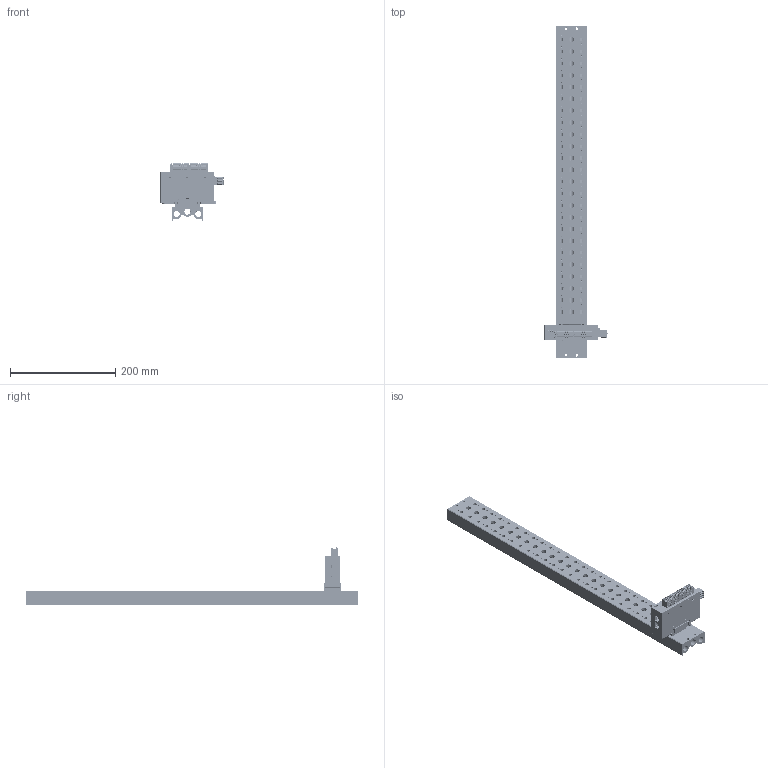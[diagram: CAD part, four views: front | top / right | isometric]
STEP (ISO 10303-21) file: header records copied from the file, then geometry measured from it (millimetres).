
FILE_DESCRIPTION(/* description */ (''),/* implementation_level */ '2;1');
FILE_NAME(/* name */ '',/* time_stamp */ '2025-10-09T16:53:15+08:00',/* author */ (''),/* organization */ (''),/* preprocessor_version */ 'ST-DEVELOPER v14',/* originating_system */ 'SIEMENS PLM Software NX 8.0',/* authorisation */ '');
FILE_SCHEMA (('AP203_CONFIGURATION_CONTROLLED_3D_DESIGN_OF_MECHANICAL_PARTS_AND_ASSEMBLIES_MIM_LF { 1 0 10303 403 2 1 2}'));
Products named in the file (1): DELL3E5857E9udrf
Bounding box: 119.8 x 631 x 108.48 mm (x, y, z)
Volume: 774145.4 mm3; surface area: 257259.6 mm2
Topology: 2 solids, 228 shells, 9914 faces, 26271 edges, 17114 vertices
Faces by surface type: plane 6439, cylinder 2346, torus 336, bspline 328, cone 284, sphere 95, extrusion 86
Full cylindrical faces by diameter (mm): 0.18 x2, 2.5 x52, 3.05 x40, 3.3 x3, 3.5 x4, 4 x3, 4.5 x4, 6 x4, 6.5 x48, 10 x24, 11.492 x2, 11.5 x5, 11.8 x6
Entity records: 327106 total; most frequent: CARTESIAN_POINT 83699, ORIENTED_EDGE 51012, DIRECTION 48688, EDGE_CURVE 25506, VECTOR 18048, LINE 17962, VERTEX_POINT 16903, AXIS2_PLACEMENT_3D 15320
